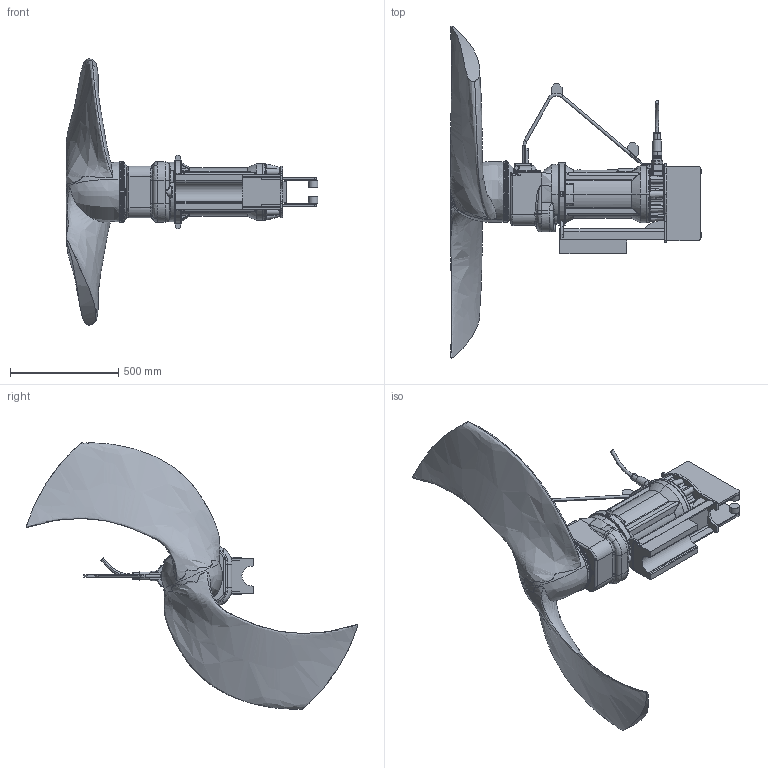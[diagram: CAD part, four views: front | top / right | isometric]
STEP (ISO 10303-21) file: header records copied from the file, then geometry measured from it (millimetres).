
FILE_DESCRIPTION (( 'STEP AP214' ), '1' );
FILE_NAME ('XSB1600 XYLEM Replacement.STEP', '2020-10-29T08:09:59', ( '' ), ( '' ), 'SwSTEP 2.0', 'SolidWorks 2017', '' );
FILE_SCHEMA (( 'AUTOMOTIVE_DESIGN' ));
Length unit declared in the file: inch
Products named in the file (1): XSB1600 XYLEM Replacement
Bounding box: 1166.54 x 1536.25 x 1233.4 mm (x, y, z)
Volume: 85927679.6 mm3; surface area: 3833776 mm2
Topology: 28 solids, 28 shells, 1542 faces, 3774 edges, 2259 vertices
Faces by surface type: bspline 683, plane 425, cylinder 362, cone 72
Entity records: 412410 total; most frequent: CARTESIAN_POINT 380513, ORIENTED_EDGE 7446, DIRECTION 5451, EDGE_CURVE 3723, VERTEX_POINT 2259, AXIS2_PLACEMENT_3D 2066, EDGE_LOOP 1578, FACE_OUTER_BOUND 1542
